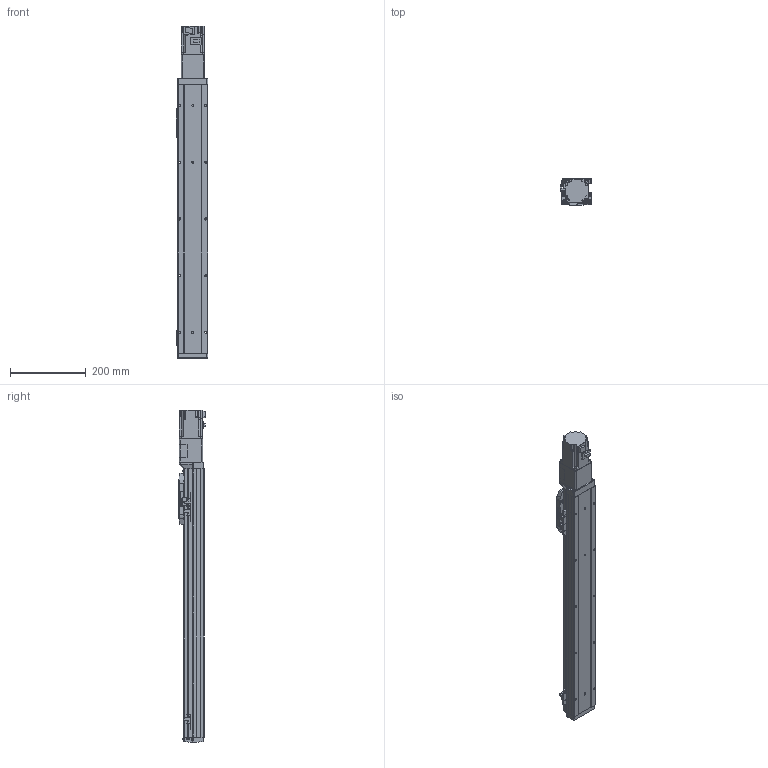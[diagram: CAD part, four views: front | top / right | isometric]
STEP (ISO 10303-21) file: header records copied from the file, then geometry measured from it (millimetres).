
FILE_DESCRIPTION (( 'STEP AP214' ), '1' );
FILE_NAME ('GSH8-550-BC-M20-1.step', '2025-01-07T06:03:58', ( '' ), ( '' ), 'SwSTEP 2.0', 'SolidWorks 2012', '' );
FILE_SCHEMA (( 'AUTOMOTIVE_DESIGN' ));
Length unit declared in the file: millimetre
Products named in the file (4): GSH8-BC-011-550-M20; GSH8-GY-004; HG-KR23_200W_Motor; GSH8-550-BC-M20-1
Assembly tree (3 placements, depth 2):
  GSH8-550-BC-M20-1
    GSH8-BC-011-550-M20
    GSH8-GY-004
    HG-KR23_200W_Motor
Bounding box: 84 x 71.3 x 877.6 mm (x, y, z)
Volume: 1836286.6 mm3; surface area: 479718.1 mm2
Topology: 3 solids, 7 shells, 1120 faces, 2963 edges, 1908 vertices
Faces by surface type: plane 646, cylinder 382, torus 38, cone 26, bspline 24, sphere 4
Entity records: 44573 total; most frequent: CARTESIAN_POINT 10543, DIRECTION 5999, ORIENTED_EDGE 5910, EDGE_CURVE 2955, AXIS2_PLACEMENT_3D 2012, VECTOR 1975, LINE 1975, VERTEX_POINT 1904
